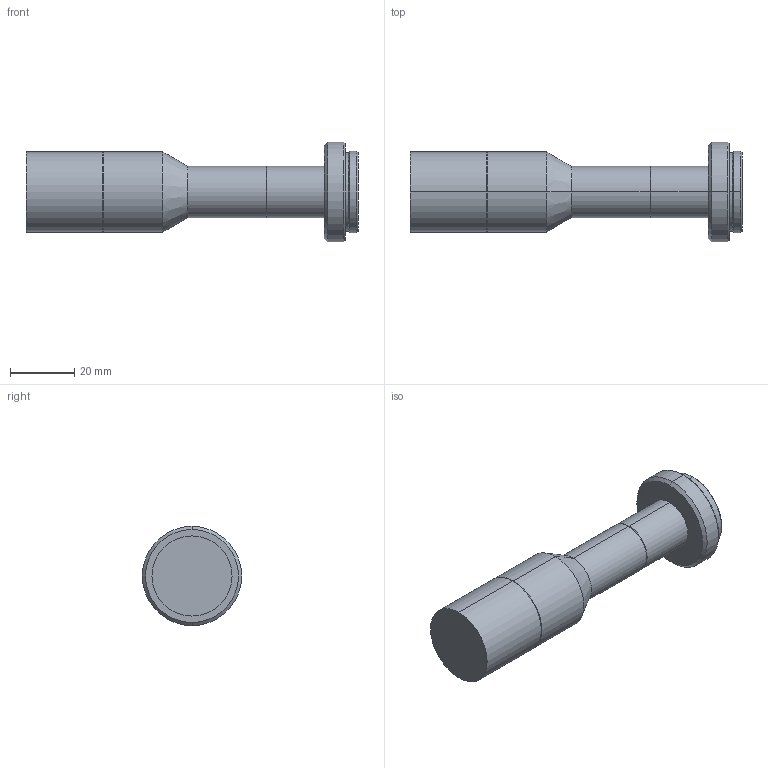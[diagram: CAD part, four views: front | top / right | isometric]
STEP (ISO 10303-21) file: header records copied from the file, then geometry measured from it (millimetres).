
FILE_DESCRIPTION (( 'STEP AP203' ), '1' );
FILE_NAME ('VS-TC08-65.STEP', '2015-08-28T05:42:59', ( 'miura_vst' ), ( '' ), 'SwSTEP 2.0', 'SolidWorks 2015', '' );
FILE_SCHEMA (( 'CONFIG_CONTROL_DESIGN' ));
Length unit declared in the file: millimetre
Products named in the file (1): VS-TC08-65
Bounding box: 103.6 x 31 x 31 mm (x, y, z)
Volume: 38970.2 mm3; surface area: 8772.6 mm2
Topology: 1 solids, 1 shells, 36 faces, 70 edges, 38 vertices
Faces by surface type: cone 18, cylinder 14, plane 4
Entity records: 981 total; most frequent: DIRECTION 182, CARTESIAN_POINT 145, ORIENTED_EDGE 140, AXIS2_PLACEMENT_3D 75, EDGE_CURVE 70, CIRCLE 38, EDGE_LOOP 38, VERTEX_POINT 38
